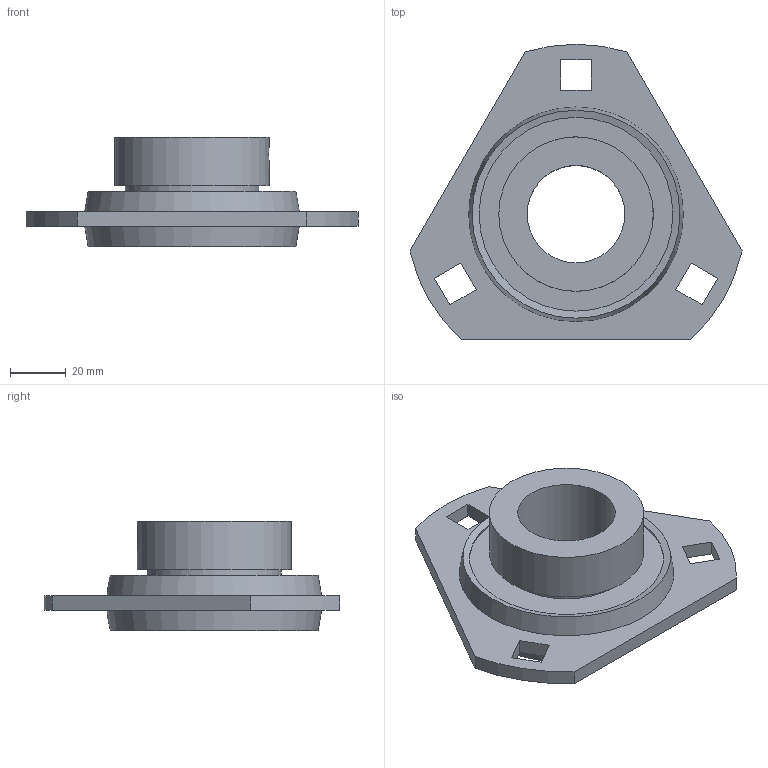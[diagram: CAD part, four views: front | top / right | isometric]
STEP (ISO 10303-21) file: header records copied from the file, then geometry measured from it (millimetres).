
FILE_DESCRIPTION((''),'2;1');
FILE_NAME('\\Ts-tgl068\j-cad-d-base\00.3DCADデータ作成フォルダ\02.フランジ形\KHPFT\KHPFT207A.stp','2014-04-24T10:29:04',('btec_1106_2'),(''),'Autodesk Inventor 2012','Autodesk Inventor 2012','');
FILE_SCHEMA(('AUTOMOTIVE_DESIGN { 1 0 10303 214 1 1 1 1 }'));
Length unit declared in the file: millimetre
Products named in the file (3): KHPFT200A; PFT7; KH207GA
Assembly tree (2 placements, depth 2):
  KHPFT200A
    PFT7
    KH207GA
Bounding box: 119.12 x 106 x 39.4 mm (x, y, z)
Volume: 112435.3 mm3; surface area: 38439.9 mm2
Topology: 2 solids, 2 shells, 48 faces, 124 edges, 84 vertices
Faces by surface type: plane 30, cylinder 9, sphere 4, cone 4, torus 1
Full cylindrical faces by diameter (mm): 6 x1, 10 x1, 35 x1, 44.67 x1, 48 x1, 55.4 x1
Entity records: 1473 total; most frequent: CARTESIAN_POINT 307, DIRECTION 224, ORIENTED_EDGE 198, EDGE_CURVE 99, AXIS2_PLACEMENT_3D 79, EDGE_LOOP 78, VERTEX_POINT 75, VECTOR 66
